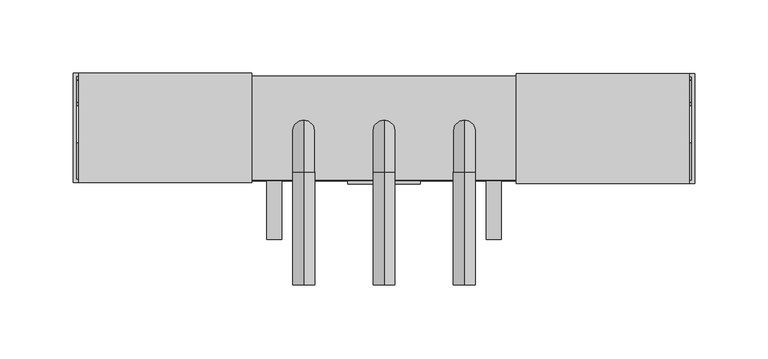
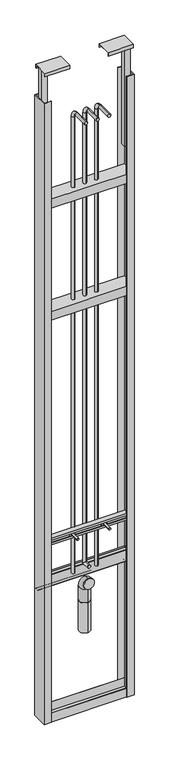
"""IFC4 building model written with IfcOpenShell, lengths in millimetres: flow terminal geometry, NLRS_74_PF_TLB_ASM WST Type A_Geberit : ASM WST Type A."""

from ifc_helpers import new_model, si_unit, point, frame, frame_2d, origin, place, context, project, spatial, polyline, circle_curve, ellipse_curve, trimmed, segment, composite_curve, outline, extrude, faceted_brep, source, transform, mapped, element, save
from ifc_brep_helpers import plane_surface, cylinder_surface, revolved_surface, advanced_brep


def flow_terminal_25b9c78a(model_context):
    return source(origin(), model_context, "Body", "SolidModel", [
        extrude(outline(composite_curve([segment(trimmed(circle_curve(frame_2d((819.5814924, 37.5)), 25.0), [point((819.5814924, 12.5))], [point((819.5814924, 62.5))], False, "CARTESIAN"), True, "CONTINUOUS"), segment(trimmed(circle_curve(frame_2d((819.5814924, 37.5)), 25.0), [point((819.5814924, 62.5))], [point((819.5814924, 12.5))], False, "CARTESIAN"), True, "CONTINUOUS")], self_intersect=False)), frame((0.0, 0.0, 327.9990595), z_axis=(0.0, 0.0, 1.0), x_axis=(1.0, 0.0, 0.0)), (0.0, 0.0, 1.0), 150.0),
        advanced_brep(
        [(819.5814924, 62.5, 546.9990595), (819.5814924, 6.5, 602.9990595), (819.5814924, 6.5, 552.9990595), (819.5814924, 12.5, 546.9990595), (819.5814924, 62.5, 477.9990595), (819.5814924, 12.5, 477.9990595), (819.5814924, 0.0, 602.9990595), (819.5814924, 0.0, 552.9990595)],
        [
            (0, 1, circle_curve(frame((819.5814924, 6.5, 546.9990595), z_axis=(1.0, 0.0, 0.0), x_axis=(0.0, 0.0, -1.0)), 56.0)),
            (1, 2, circle_curve(frame((819.5814924, 6.5, 577.9990595), z_axis=(0.0, 1.0, 0.0), x_axis=(0.0, 0.0, 1.0)), 25.0)),
            (2, 3, circle_curve(frame((819.5814924, 6.5, 546.9990595), z_axis=(-1.0, 0.0, 0.0), x_axis=(0.0, 0.0, -1.0)), 6.0)),
            (3, 0, circle_curve(frame((819.5814924, 37.5, 546.9990595), z_axis=(0.0, 0.0, 1.0), x_axis=(0.0, 1.0, 0.0)), 25.0)),
            (0, 3, circle_curve(frame((819.5814924, 37.5, 546.9990595), z_axis=(0.0, -1.0090147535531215e-12, 1.0), x_axis=(0.0, 1.0, 1.0090147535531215e-12)), 25.0)),
            (2, 1, circle_curve(frame((819.5814924, 6.5, 577.9990595), z_axis=(0.0, 1.0, 0.0), x_axis=(0.0, 0.0, 1.0)), 25.0)),
            (4, 5, circle_curve(frame((819.5814924, 37.5, 477.9990595), z_axis=(0.0, 0.0, -1.0), x_axis=(0.0, -1.0, 0.0)), 25.0)),
            (5, 4, circle_curve(frame((819.5814924, 37.5, 477.9990595), z_axis=(0.0, 0.0, -1.0), x_axis=(0.0, -1.0, 0.0)), 25.0)),
            (5, 3),
            (0, 4),
            (6, 7, circle_curve(frame((819.5814924, 0.0, 577.9990595), z_axis=(0.0, -1.0, 0.0), x_axis=(0.0, 0.0, 1.0)), 25.0)),
            (7, 6, circle_curve(frame((819.5814924, 0.0, 577.9990595), z_axis=(0.0, -1.0, 0.0), x_axis=(0.0, 0.0, 1.0)), 25.0)),
            (6, 1),
            (2, 7),
        ],
        [
            revolved_surface(trimmed(ellipse_curve(frame((819.5814924, 6.5, 515.9990595), z_axis=(0.0, -1.0, 0.0), x_axis=(0.0, 0.0, -1.0)), 25.0, 25.0), [point((819.5814924, 6.5, 490.9990595))], [point((819.5814924, 6.5, 540.9990595))], True, "CARTESIAN"), (819.5814924, 6.5, 546.9990595), (1.0, 0.0, 0.0)),
            revolved_surface(trimmed(ellipse_curve(frame((819.5814924, 6.5, 515.9990595), z_axis=(0.0, -1.0, 0.0), x_axis=(0.0, 0.0, -1.0)), 25.0, 25.0), [point((819.5814924, 6.5, 540.9990595))], [point((819.5814924, 6.5, 490.9990595))], True, "CARTESIAN"), (819.5814924, 6.5, 546.9990595), (1.0, 0.0, 0.0)),
            plane_surface(frame((819.5814924, 0.0, 477.9990595), z_axis=(0.0, 0.0, -1.0), x_axis=(0.0, -1.0, 0.0))),
            cylinder_surface(frame((819.5814924, 37.5, 546.9990595), z_axis=(0.0, 0.0, 1.0), x_axis=(0.0, -1.0, 0.0)), 25.0),
            plane_surface(frame((819.5814924, 0.0, 602.9990595), z_axis=(0.0, -1.0, 0.0), x_axis=(-1.0, 0.0, 0.0))),
            cylinder_surface(frame((819.5814924, 6.5, 577.9990595), z_axis=(0.0, -1.0, 0.0), x_axis=(0.0, 0.0, 1.0)), 25.0),
        ],
        [
            (0, [[1, 2, 3, 4]]),
            (1, [[-1, 5, -3, 6]]),
            (2, [[7, 8]]),
            (3, [[-8, 9, -5, 10]]),
            (3, [[-7, -10, -4, -9]]),
            (4, [[11, 12]]),
            (5, [[-11, 13, -6, 14]]),
            (5, [[-12, -14, -2, -13]]),
        ],
    ),
        extrude(outline(polyline([(2.5, 2516.0), (2.5, 2560.0), (73.5, 2560.0), (73.5, 2516.0), (71.5, 2516.0), (71.5, 2558.0), (4.5, 2558.0), (4.5, 2516.0), (2.5, 2516.0)])), frame((612.0814924, 0.0, 0.0), z_axis=(1.0, 0.0, 0.0), x_axis=(0.0, 1.0, 0.0)), (0.0, 0.0, 1.0), 415.0),
        extrude(outline(polyline([(2.5, 1956.0), (2.5, 2000.0), (73.5, 2000.0), (73.5, 1956.0), (71.5, 1956.0), (71.5, 1998.0), (4.5, 1998.0), (4.5, 1956.0), (2.5, 1956.0)])), frame((612.0814924, 0.0, 0.0), z_axis=(1.0, 0.0, 0.0), x_axis=(0.0, 1.0, 0.0)), (0.0, 0.0, 1.0), 415.0),
        extrude(outline(polyline([(997.0814924, 0.0), (997.0814924, 2.0), (1030.0814924, 2.0), (1030.0814924, 73.0), (997.0814924, 73.0), (997.0814924, 75.0), (1032.0814924, 75.0), (1032.0814924, 0.0), (997.0814924, 0.0)])), frame((0.0, 0.0, -50.0), z_axis=(0.0, 0.0, 1.0), x_axis=(1.0, 0.0, 0.0)), (0.0, 0.0, 1.0), 3100.0),
        extrude(outline(polyline([(642.0814924, 0.5), (607.0814924, 0.5), (607.0814924, 75.5), (642.0814924, 75.5), (642.0814924, 73.5), (609.0814924, 73.5), (609.0814924, 2.5), (642.0814924, 2.5), (642.0814924, 0.5)])), frame((0.0, 0.0, -50.0), z_axis=(0.0, 0.0, 1.0), x_axis=(1.0, 0.0, 0.0)), (0.0, 0.0, 1.0), 3100.0),
        extrude(outline(polyline([(2.0, -6.0), (4.0, -6.0), (4.0, -48.0), (71.0, -48.0), (71.0, -6.0), (73.0, -6.0), (73.0, -50.0), (2.0, -50.0), (2.0, -6.0)])), frame((612.0814924, 0.0, 0.0), z_axis=(1.0, 0.0, 0.0), x_axis=(0.0, 1.0, 0.0)), (0.0, 0.0, 1.0), 415.0),
        faceted_brep([(910.0814924, 0.0, 3183.0), (910.0814924, 0.0, 3200.0), (910.0814924, 75.0, 3200.0), (910.0814924, 75.0, 3183.0), (910.0814924, 73.0, 3183.0), (910.0814924, 73.0, 3198.0), (910.0814924, 2.0, 3198.0), (910.0814924, 2.0, 3183.0), (1028.0814924, 0.0, 3183.0), (1028.0814924, 2.0, 3183.0), (1028.0814924, 2.0, 3198.0), (1028.0814924, 25.0, 3198.0), (1028.0814924, 25.0, 2683.0), (1028.0814924, 50.0, 2683.0), (1028.0814924, 50.0, 3198.0), (1028.0814924, 73.0, 3198.0), (1028.0814924, 73.0, 3183.0), (1028.0814924, 75.0, 3183.0), (1028.0814924, 75.0, 3200.0), (1028.0814924, 0.0, 3200.0), (1003.0814924, 50.0, 3198.0), (1003.0814924, 25.0, 3198.0), (1003.0814924, 25.0, 2683.0), (1003.0814924, 50.0, 2683.0)], [[[0, 1, 2, 3, 4, 5, 6, 7]], [[8, 9, 10, 11, 12, 13, 14, 15, 16, 17, 18, 19]], [[0, 7, 9, 8]], [[7, 6, 10, 9]], [[6, 5, 15, 14, 20, 21, 11, 10]], [[5, 4, 16, 15]], [[4, 3, 17, 16]], [[3, 2, 18, 17]], [[2, 1, 19, 18]], [[1, 0, 8, 19]], [[22, 23, 13, 12]], [[22, 12, 11, 21]], [[13, 23, 20, 14]], [[23, 22, 21, 20]]]),
        faceted_brep([(729.0814924, 0.5, 3183.0), (729.0814924, 2.5, 3183.0), (729.0814924, 2.5, 3198.0), (729.0814924, 73.5, 3198.0), (729.0814924, 73.5, 3183.0), (729.0814924, 75.5, 3183.0), (729.0814924, 75.5, 3200.0), (729.0814924, 0.5, 3200.0), (611.0814924, 0.5, 3183.0), (611.0814924, 0.5, 3200.0), (611.0814924, 75.5, 3200.0), (611.0814924, 75.5, 3183.0), (611.0814924, 73.5, 3183.0), (611.0814924, 73.5, 3198.0), (611.0814924, 50.5, 3198.0), (611.0814924, 50.5, 2683.0), (611.0814924, 25.5, 2683.0), (611.0814924, 25.5, 3198.0), (611.0814924, 2.5, 3198.0), (611.0814924, 2.5, 3183.0), (636.0814924, 25.5, 3198.0), (636.0814924, 50.5, 3198.0), (636.0814924, 25.5, 2683.0), (636.0814924, 50.5, 2683.0)], [[[0, 1, 2, 3, 4, 5, 6, 7]], [[8, 9, 10, 11, 12, 13, 14, 15, 16, 17, 18, 19]], [[0, 8, 19, 1]], [[1, 19, 18, 2]], [[2, 18, 17, 20, 21, 14, 13, 3]], [[3, 13, 12, 4]], [[4, 12, 11, 5]], [[5, 11, 10, 6]], [[6, 10, 9, 7]], [[7, 9, 8, 0]], [[22, 16, 15, 23]], [[22, 20, 17, 16]], [[15, 14, 21, 23]], [[23, 21, 20, 22]]]),
        advanced_brep(
        [(819.5814924, 0.0, 672.5), (819.5814924, 0.0, 657.5), (819.5814924, 43.1893191, 657.5), (819.5814924, 28.1893191, 672.5), (819.5814924, 28.1893191, 2912.0), (819.5814924, 43.1893191, 2912.0), (819.5814924, 7.6893191, 2947.5), (819.5814924, 7.6893191, 2932.5), (819.5814924, -69.5, 2932.5), (819.5814924, -69.5, 2947.5)],
        [
            (0, 1, circle_curve(frame((819.5814924, 0.0, 665.0), z_axis=(0.0, -1.0, 0.0), x_axis=(0.0, 0.0, -1.0)), 7.5)),
            (1, 0, circle_curve(frame((819.5814924, 0.0, 665.0), z_axis=(0.0, -1.0, 0.0), x_axis=(0.0, 0.0, -1.0)), 7.5)),
            (2, 3, ellipse_curve(frame((819.5814924, 35.6893191, 665.0), z_axis=(0.0, 0.7071067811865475, 0.7071067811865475), x_axis=(0.0, 0.7071067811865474, -0.7071067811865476)), 10.6066017, 7.5)),
            (3, 4),
            (4, 5, circle_curve(frame((819.5814924, 35.6893191, 2912.0), z_axis=(0.0, 0.0, -1.0), x_axis=(0.0, 1.0, 0.0)), 7.5)),
            (5, 2),
            (3, 2, ellipse_curve(frame((819.5814924, 35.6893191, 665.0), z_axis=(0.0, 0.7071067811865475, 0.7071067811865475), x_axis=(0.0, 0.7071067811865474, -0.7071067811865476)), 10.6066017, 7.5)),
            (5, 4, circle_curve(frame((819.5814924, 35.6893191, 2912.0), z_axis=(0.0, 0.0, -1.0), x_axis=(0.0, 1.0, 0.0)), 7.5)),
            (6, 5, circle_curve(frame((819.5814924, 7.6893191, 2912.0), z_axis=(-1.0, 0.0, 0.0), x_axis=(0.0, 1.0, 0.0)), 35.5)),
            (4, 7, circle_curve(frame((819.5814924, 7.6893191, 2912.0), z_axis=(1.0, 0.0, 0.0), x_axis=(0.0, 1.0, 0.0)), 20.5)),
            (7, 6, circle_curve(frame((819.5814924, 7.6893191, 2940.0), z_axis=(0.0, 1.0, 0.0), x_axis=(0.0, 0.0, 1.0)), 7.5)),
            (6, 7, circle_curve(frame((819.5814924, 7.6893191, 2940.0), z_axis=(0.0, 1.0, 0.0), x_axis=(0.0, 0.0, 1.0)), 7.5)),
            (8, 9, circle_curve(frame((819.5814924, -69.5, 2940.0), z_axis=(0.0, -1.0, 0.0), x_axis=(0.0, 0.0, 1.0)), 7.5)),
            (9, 8, circle_curve(frame((819.5814924, -69.5, 2940.0), z_axis=(0.0, -1.0, 0.0), x_axis=(0.0, 0.0, 1.0)), 7.5)),
            (7, 8),
            (9, 6),
            (0, 3),
            (2, 1),
        ],
        [
            plane_surface(frame((874.5814924, 0.0, 665.0), z_axis=(0.0, -1.0, 0.0), x_axis=(-1.0, 0.0, 0.0))),
            cylinder_surface(frame((819.5814924, 35.6893191, 665.0), z_axis=(0.0, 0.0, -1.0), x_axis=(0.0, 1.0, 0.0)), 7.5),
            revolved_surface(trimmed(ellipse_curve(frame((819.5814924, 35.6893191, 2912.0), z_axis=(0.0, 0.0, -1.0), x_axis=(0.0, 1.0, 0.0)), 7.5, 7.5), [point((819.5814924, 28.1893191, 2912.0))], [point((819.5814924, 43.1893191, 2912.0))], True, "CARTESIAN"), (874.5814924, 7.6893191, 2912.0), (1.0, 0.0, 0.0)),
            revolved_surface(trimmed(ellipse_curve(frame((819.5814924, 35.6893191, 2912.0), z_axis=(0.0, 0.0, -1.0), x_axis=(0.0, 1.0, 0.0)), 7.5, 7.5), [point((819.5814924, 43.1893191, 2912.0))], [point((819.5814924, 28.1893191, 2912.0))], True, "CARTESIAN"), (874.5814924, 7.6893191, 2912.0), (1.0, 0.0, 0.0)),
            plane_surface(frame((874.5814924, -69.5, 2940.0), z_axis=(0.0, -1.0, 0.0), x_axis=(-1.0, 0.0, 0.0))),
            cylinder_surface(frame((819.5814924, 7.6893191, 2940.0), z_axis=(0.0, 1.0, 0.0), x_axis=(0.0, 0.0, 1.0)), 7.5),
            cylinder_surface(frame((819.5814924, 0.0, 665.0), z_axis=(0.0, -1.0, 0.0), x_axis=(0.0, 0.0, -1.0)), 7.5),
        ],
        [
            (0, [[1, 2]]),
            (1, [[3, 4, 5, 6]]),
            (1, [[7, -6, 8, -4]]),
            (2, [[9, -5, 10, 11]]),
            (3, [[-10, -8, -9, 12]]),
            (4, [[13, 14]]),
            (5, [[-11, 15, -14, 16]]),
            (5, [[-12, -16, -13, -15]]),
            (6, [[-1, 17, -3, 18]]),
            (6, [[-2, -18, -7, -17]]),
        ],
    ),
        advanced_brep(
        [(874.5814924, 28.1893191, 633.0), (874.5814924, 43.1893191, 633.0), (874.5814924, 28.1893191, 2912.0), (874.5814924, 43.1893191, 2912.0), (874.5814924, 7.6893191, 2947.5), (874.5814924, 7.6893191, 2932.5), (874.5814924, -69.5, 2932.5), (874.5814924, -69.5, 2947.5)],
        [
            (0, 1, circle_curve(frame((874.5814924, 35.6893191, 633.0), z_axis=(0.0, 0.0, -1.0), x_axis=(0.0, 1.0, 0.0)), 7.5)),
            (1, 0, circle_curve(frame((874.5814924, 35.6893191, 633.0), z_axis=(0.0, 0.0, -1.0), x_axis=(0.0, 1.0, 0.0)), 7.5)),
            (0, 2),
            (2, 3, circle_curve(frame((874.5814924, 35.6893191, 2912.0), z_axis=(0.0, 0.0, -1.0), x_axis=(0.0, 1.0, 0.0)), 7.5)),
            (3, 1),
            (3, 2, circle_curve(frame((874.5814924, 35.6893191, 2912.0), z_axis=(0.0, 0.0, -1.0), x_axis=(0.0, 1.0, 0.0)), 7.5)),
            (4, 3, circle_curve(frame((874.5814924, 7.6893191, 2912.0), z_axis=(-1.0, 0.0, 0.0), x_axis=(0.0, 1.0, 0.0)), 35.5)),
            (2, 5, circle_curve(frame((874.5814924, 7.6893191, 2912.0), z_axis=(1.0, 0.0, 0.0), x_axis=(0.0, 1.0, 0.0)), 20.5)),
            (5, 4, circle_curve(frame((874.5814924, 7.6893191, 2940.0), z_axis=(0.0, 1.0, 0.0), x_axis=(0.0, 0.0, 1.0)), 7.5)),
            (4, 5, circle_curve(frame((874.5814924, 7.6893191, 2940.0), z_axis=(0.0, 1.0, 0.0), x_axis=(0.0, 0.0, 1.0)), 7.5)),
            (6, 7, circle_curve(frame((874.5814924, -69.5, 2940.0), z_axis=(0.0, -1.0, 0.0), x_axis=(0.0, 0.0, 1.0)), 7.5)),
            (7, 6, circle_curve(frame((874.5814924, -69.5, 2940.0), z_axis=(0.0, -1.0, 0.0), x_axis=(0.0, 0.0, 1.0)), 7.5)),
            (5, 6),
            (7, 4),
        ],
        [
            plane_surface(frame((874.5814924, 35.6893191, 633.0), z_axis=(0.0, 0.0, -1.0), x_axis=(-1.0, 0.0, 0.0))),
            cylinder_surface(frame((874.5814924, 35.6893191, 633.0), z_axis=(0.0, 0.0, -1.0), x_axis=(0.0, 1.0, 0.0)), 7.5),
            revolved_surface(trimmed(ellipse_curve(frame((874.5814924, 35.6893191, 2912.0), z_axis=(0.0, 0.0, -1.0), x_axis=(0.0, 1.0, 0.0)), 7.5, 7.5), [point((874.5814924, 28.1893191, 2912.0))], [point((874.5814924, 43.1893191, 2912.0))], True, "CARTESIAN"), (874.5814924, 7.6893191, 2912.0), (1.0, 0.0, 0.0)),
            revolved_surface(trimmed(ellipse_curve(frame((874.5814924, 35.6893191, 2912.0), z_axis=(0.0, 0.0, -1.0), x_axis=(0.0, 1.0, 0.0)), 7.5, 7.5), [point((874.5814924, 43.1893191, 2912.0))], [point((874.5814924, 28.1893191, 2912.0))], True, "CARTESIAN"), (874.5814924, 7.6893191, 2912.0), (1.0, 0.0, 0.0)),
            plane_surface(frame((874.5814924, -69.5, 2940.0), z_axis=(0.0, -1.0, 0.0), x_axis=(-1.0, 0.0, 0.0))),
            cylinder_surface(frame((874.5814924, 7.6893191, 2940.0), z_axis=(0.0, 1.0, 0.0), x_axis=(0.0, 0.0, 1.0)), 7.5),
        ],
        [
            (0, [[1, 2]]),
            (1, [[-1, 3, 4, 5]]),
            (1, [[-2, -5, 6, -3]]),
            (2, [[7, -4, 8, 9]]),
            (3, [[-8, -6, -7, 10]]),
            (4, [[11, 12]]),
            (5, [[-9, 13, -12, 14]]),
            (5, [[-10, -14, -11, -13]]),
        ],
    ),
        advanced_brep(
        [(764.5814924, 28.1893191, 633.0), (764.5814924, 43.1893191, 633.0), (764.5814924, -69.5, 2932.5), (764.5814924, -69.5, 2947.5), (764.5814924, 28.1893191, 2912.0), (764.5814924, 43.1893191, 2912.0), (764.5814924, 7.6893191, 2947.5), (764.5814924, 7.6893191, 2932.5)],
        [
            (0, 1, circle_curve(frame((764.5814924, 35.6893191, 633.0), z_axis=(0.0, 0.0, -1.0), x_axis=(0.0, 1.0, 0.0)), 7.5)),
            (1, 0, circle_curve(frame((764.5814924, 35.6893191, 633.0), z_axis=(0.0, 0.0, -1.0), x_axis=(0.0, 1.0, 0.0)), 7.5)),
            (2, 3, circle_curve(frame((764.5814924, -69.5, 2940.0), z_axis=(0.0, -1.0, 0.0), x_axis=(0.0, 0.0, 1.0)), 7.5)),
            (3, 2, circle_curve(frame((764.5814924, -69.5, 2940.0), z_axis=(0.0, -1.0, 0.0), x_axis=(0.0, 0.0, 1.0)), 7.5)),
            (0, 4),
            (4, 5, circle_curve(frame((764.5814924, 35.6893191, 2912.0), z_axis=(0.0, 0.0, -1.0), x_axis=(0.0, 1.0, 0.0)), 7.5)),
            (5, 1),
            (5, 4, circle_curve(frame((764.5814924, 35.6893191, 2912.0), z_axis=(0.0, 0.0, -1.0), x_axis=(0.0, 1.0, 0.0)), 7.5)),
            (6, 5, circle_curve(frame((764.5814924, 7.6893191, 2912.0), z_axis=(-1.0, 0.0, 0.0), x_axis=(0.0, 1.0, 0.0)), 35.5)),
            (4, 7, circle_curve(frame((764.5814924, 7.6893191, 2912.0), z_axis=(1.0, 0.0, 0.0), x_axis=(0.0, 1.0, 0.0)), 20.5)),
            (7, 6, circle_curve(frame((764.5814924, 7.6893191, 2940.0), z_axis=(0.0, 1.0, 0.0), x_axis=(0.0, 0.0, 1.0)), 7.5)),
            (6, 7, circle_curve(frame((764.5814924, 7.6893191, 2940.0), z_axis=(0.0, 1.0, 0.0), x_axis=(0.0, 0.0, 1.0)), 7.5)),
            (7, 2),
            (3, 6),
        ],
        [
            plane_surface(frame((764.5814924, 35.6893191, 633.0), z_axis=(0.0, 0.0, -1.0), x_axis=(-1.0, 0.0, 0.0))),
            plane_surface(frame((764.5814924, -69.5, 2940.0), z_axis=(0.0, -1.0, 0.0), x_axis=(-1.0, 0.0, 0.0))),
            cylinder_surface(frame((764.5814924, 35.6893191, 633.0), z_axis=(0.0, 0.0, -1.0), x_axis=(0.0, 1.0, 0.0)), 7.5),
            revolved_surface(trimmed(ellipse_curve(frame((764.5814924, 35.6893191, 2912.0), z_axis=(0.0, 0.0, -1.0), x_axis=(0.0, 1.0, 0.0)), 7.5, 7.5), [point((764.5814924, 28.1893191, 2912.0))], [point((764.5814924, 43.1893191, 2912.0))], True, "CARTESIAN"), (764.5814924, 7.6893191, 2912.0), (1.0, 0.0, 0.0)),
            revolved_surface(trimmed(ellipse_curve(frame((764.5814924, 35.6893191, 2912.0), z_axis=(0.0, 0.0, -1.0), x_axis=(0.0, 1.0, 0.0)), 7.5, 7.5), [point((764.5814924, 43.1893191, 2912.0))], [point((764.5814924, 28.1893191, 2912.0))], True, "CARTESIAN"), (764.5814924, 7.6893191, 2912.0), (1.0, 0.0, 0.0)),
            cylinder_surface(frame((764.5814924, 7.6893191, 2940.0), z_axis=(0.0, 1.0, 0.0), x_axis=(0.0, 0.0, 1.0)), 7.5),
        ],
        [
            (0, [[1, 2]]),
            (1, [[3, 4]]),
            (2, [[-1, 5, 6, 7]]),
            (2, [[-2, -7, 8, -5]]),
            (3, [[9, -6, 10, 11]]),
            (4, [[-10, -8, -9, 12]]),
            (5, [[-11, 13, -4, 14]]),
            (5, [[-12, -14, -3, -13]]),
        ],
    ),
        advanced_brep(
        [(739.5750369, -38.0, 850.0), (749.5750369, -38.0, 850.0), (739.5750369, 12.0, 850.0), (749.5750369, 12.0, 850.0), (756.5814924, 9.0, 862.0061365), (756.5814924, 9.0, 837.9938635), (732.5814924, 9.0, 837.9938635), (732.5814924, 9.0, 862.0061365), (739.5750369, 9.0, 850.0), (749.5750369, 9.0, 850.0), (756.5814924, 6.0, 862.0061365), (732.5814924, 6.0, 862.0061365), (732.5814924, 6.0, 837.9938635), (756.5814924, 6.0, 837.9938635), (749.5750369, 6.0, 850.0), (739.5750369, 6.0, 850.0)],
        [
            (0, 1, circle_curve(frame((744.5750369, -38.0, 850.0), z_axis=(0.0, -1.0, 0.0), x_axis=(1.0, 0.0, 0.0)), 5.0)),
            (1, 0, circle_curve(frame((744.5750369, -38.0, 850.0), z_axis=(0.0, -1.0, 0.0), x_axis=(1.0, 0.0, 0.0)), 5.0)),
            (2, 3, circle_curve(frame((744.5750369, 12.0, 850.0), z_axis=(0.0, 1.0, 0.0), x_axis=(1.0, 0.0, 0.0)), 5.0)),
            (3, 2, circle_curve(frame((744.5750369, 12.0, 850.0), z_axis=(0.0, 1.0, 0.0), x_axis=(1.0, 0.0, 0.0)), 5.0)),
            (4, 5),
            (5, 6),
            (6, 7),
            (7, 4),
            (8, 9, circle_curve(frame((744.5750369, 9.0, 850.0), z_axis=(0.0, -1.0, 0.0), x_axis=(1.0, 0.0, 0.0)), 5.0)),
            (9, 8, circle_curve(frame((744.5750369, 9.0, 850.0), z_axis=(0.0, -1.0, 0.0), x_axis=(1.0, 0.0, 0.0)), 5.0)),
            (10, 11),
            (11, 12),
            (12, 13),
            (13, 10),
            (14, 15, circle_curve(frame((744.5750369, 6.0, 850.0), z_axis=(0.0, 1.0, 0.0), x_axis=(1.0, 0.0, 0.0)), 5.0)),
            (15, 14, circle_curve(frame((744.5750369, 6.0, 850.0), z_axis=(0.0, 1.0, 0.0), x_axis=(1.0, 0.0, 0.0)), 5.0)),
            (7, 11),
            (10, 4),
            (6, 12),
            (5, 13),
            (0, 15),
            (14, 1),
            (3, 9),
            (8, 2),
        ],
        [
            plane_surface(frame((749.5750369, -38.0, 850.0), z_axis=(0.0, -1.0, 0.0), x_axis=(0.0, 0.0, 1.0))),
            plane_surface(frame((749.5750369, 12.0, 850.0), z_axis=(0.0, 1.0, 0.0), x_axis=(0.0, 0.0, -1.0))),
            plane_surface(frame((732.5814924, 9.0, 862.0061365), z_axis=(0.0, 1.0, 0.0), x_axis=(1.0, 0.0, 0.0))),
            plane_surface(frame((732.5814924, 6.0, 862.0061365), z_axis=(0.0, -1.0, 0.0), x_axis=(-1.0, 0.0, 0.0))),
            plane_surface(frame((756.5814924, 6.0, 862.0061365), z_axis=(0.0, 0.0, 1.0), x_axis=(0.0, 1.0, 0.0))),
            plane_surface(frame((732.5814924, 6.0, 862.0061365), z_axis=(-1.0, 0.0, 0.0), x_axis=(0.0, 1.0, 0.0))),
            plane_surface(frame((732.5814924, 6.0, 837.9938635), z_axis=(0.0, 0.0, -1.0), x_axis=(0.0, 1.0, 0.0))),
            plane_surface(frame((756.5814924, 6.0, 837.9938635), z_axis=(1.0, 0.0, 0.0), x_axis=(0.0, 1.0, 0.0))),
            cylinder_surface(frame((744.5750369, 12.0, 850.0), z_axis=(0.0, -1.0, 0.0), x_axis=(1.0, 0.0, 0.0)), 5.0),
        ],
        [
            (0, [[1, 2]]),
            (1, [[3, 4]]),
            (2, [[5, 6, 7, 8], [9, 10]]),
            (3, [[11, 12, 13, 14], [15, 16]]),
            (4, [[-8, 17, -11, 18]]),
            (5, [[-7, 19, -12, -17]]),
            (6, [[-6, 20, -13, -19]]),
            (7, [[-5, -18, -14, -20]]),
            (8, [[-1, 21, -15, 22]]),
            (8, [[-4, 23, -9, 24]]),
            (8, [[-2, -22, -16, -21]]),
            (8, [[-3, -24, -10, -23]]),
        ],
    ),
        advanced_brep(
        [(906.5814924, 9.0, 862.0061365), (906.5814924, 9.0, 837.9938635), (882.5814924, 9.0, 837.9938635), (882.5814924, 9.0, 862.0061365), (889.5814924, 9.0, 850.0), (899.5814924, 9.0, 850.0), (906.5814924, 6.0, 862.0061365), (882.5814924, 6.0, 862.0061365), (882.5814924, 6.0, 837.9938635), (906.5814924, 6.0, 837.9938635), (899.5814924, 6.0, 850.0), (889.5814924, 6.0, 850.0), (889.5814924, -38.0, 850.0), (899.5814924, -38.0, 850.0), (889.5814924, 12.0, 850.0), (899.5814924, 12.0, 850.0)],
        [
            (0, 1),
            (1, 2),
            (2, 3),
            (3, 0),
            (4, 5, circle_curve(frame((894.5814924, 9.0, 850.0), z_axis=(0.0, -1.0, 0.0), x_axis=(1.0, 0.0, 0.0)), 5.0)),
            (5, 4, circle_curve(frame((894.5814924, 9.0, 850.0), z_axis=(0.0, -1.0, 0.0), x_axis=(1.0, 0.0, 0.0)), 5.0)),
            (6, 7),
            (7, 8),
            (8, 9),
            (9, 6),
            (10, 11, circle_curve(frame((894.5814924, 6.0, 850.0), z_axis=(0.0, 1.0, 0.0), x_axis=(1.0, 0.0, 0.0)), 5.0)),
            (11, 10, circle_curve(frame((894.5814924, 6.0, 850.0), z_axis=(0.0, 1.0, 0.0), x_axis=(1.0, 0.0, 0.0)), 5.0)),
            (3, 7),
            (6, 0),
            (2, 8),
            (1, 9),
            (12, 13, circle_curve(frame((894.5814924, -38.0, 850.0), z_axis=(0.0, -1.0, 0.0), x_axis=(1.0, 0.0, 0.0)), 5.0)),
            (13, 12, circle_curve(frame((894.5814924, -38.0, 850.0), z_axis=(0.0, -1.0, 0.0), x_axis=(1.0, 0.0, 0.0)), 5.0)),
            (14, 15, circle_curve(frame((894.5814924, 12.0, 850.0), z_axis=(0.0, 1.0, 0.0), x_axis=(1.0, 0.0, 0.0)), 5.0)),
            (15, 14, circle_curve(frame((894.5814924, 12.0, 850.0), z_axis=(0.0, 1.0, 0.0), x_axis=(1.0, 0.0, 0.0)), 5.0)),
            (12, 11),
            (10, 13),
            (15, 5),
            (4, 14),
        ],
        [
            plane_surface(frame((732.5814924, 9.0, 862.0061365), z_axis=(0.0, 1.0, 0.0), x_axis=(1.0, 0.0, 0.0))),
            plane_surface(frame((732.5814924, 6.0, 862.0061365), z_axis=(0.0, -1.0, 0.0), x_axis=(-1.0, 0.0, 0.0))),
            plane_surface(frame((906.5814924, 6.0, 862.0061365), z_axis=(0.0, 0.0, 1.0), x_axis=(0.0, 1.0, 0.0))),
            plane_surface(frame((882.5814924, 6.0, 862.0061365), z_axis=(-1.0, 0.0, 0.0), x_axis=(0.0, 1.0, 0.0))),
            plane_surface(frame((882.5814924, 6.0, 837.9938635), z_axis=(0.0, 0.0, -1.0), x_axis=(0.0, 1.0, 0.0))),
            plane_surface(frame((906.5814924, 6.0, 837.9938635), z_axis=(1.0, 0.0, 0.0), x_axis=(0.0, 1.0, 0.0))),
            plane_surface(frame((899.5814924, -38.0, 850.0), z_axis=(0.0, -1.0, 0.0), x_axis=(0.0, 0.0, 1.0))),
            plane_surface(frame((899.5814924, 12.0, 850.0), z_axis=(0.0, 1.0, 0.0), x_axis=(0.0, 0.0, -1.0))),
            cylinder_surface(frame((894.5814924, 12.0, 850.0), z_axis=(0.0, -1.0, 0.0), x_axis=(1.0, 0.0, 0.0)), 5.0),
        ],
        [
            (0, [[1, 2, 3, 4], [5, 6]]),
            (1, [[7, 8, 9, 10], [11, 12]]),
            (2, [[-4, 13, -7, 14]]),
            (3, [[-3, 15, -8, -13]]),
            (4, [[-2, 16, -9, -15]]),
            (5, [[-1, -14, -10, -16]]),
            (6, [[17, 18]]),
            (7, [[19, 20]]),
            (8, [[-17, 21, -11, 22]]),
            (8, [[-20, 23, -5, 24]]),
            (8, [[-18, -22, -12, -21]]),
            (8, [[-19, -24, -6, -23]]),
        ],
    ),
        extrude(outline(polyline([(27.9787209, 865.5037298), (27.9787209, 834.4725601), (2.5, 834.4725601), (2.5, 844.4725601), (4.4828185, 844.4725601), (4.4828185, 836.5435697), (26.0224407, 836.5435697), (26.0224407, 863.5504833), (4.4828185, 863.5504833), (4.4828185, 855.5037298), (2.5, 855.5037298), (2.5, 865.5037298), (27.9787209, 865.5037298)])), frame((609.0917509, 0.0, 0.0), z_axis=(1.0, 0.0, 0.0), x_axis=(0.0, 1.0, 0.0)), (0.0, 0.0, 1.0), 420.9897416),
        extrude(outline(composite_curve([segment(trimmed(circle_curve(frame_2d((71.3732031, 644.0160249)), 2.1267969), [point((73.5, 644.0160249))], [point((71.3732031, 641.889228))], False, "CARTESIAN"), True, "CONTINUOUS"), segment(polyline([(71.3732031, 641.889228), (56.3732031, 641.889228)]), True, "CONTINUOUS"), segment(trimmed(circle_curve(frame_2d((56.3732031, 641.2053441)), 0.683884), [point((56.3732031, 641.889228))], [point((55.6893191, 641.2053441))], True, "CARTESIAN"), True, "CONTINUOUS"), segment(polyline([(55.6893191, 641.2053441), (55.6893191, 588.7713196)]), True, "CONTINUOUS"), segment(trimmed(circle_curve(frame_2d((56.3874999, 588.7713196)), 0.6981808), [point((55.6893191, 588.7713196))], [point((56.3874999, 588.0731388))], True, "CARTESIAN"), True, "CONTINUOUS"), segment(polyline([(56.3874999, 588.0731388), (71.3874999, 588.0731388)]), True, "CONTINUOUS"), segment(trimmed(circle_curve(frame_2d((71.3874999, 585.9606387)), 2.1125001), [point((71.3874999, 588.0731388))], [point((73.5, 585.9606387))], False, "CARTESIAN"), True, "CONTINUOUS"), segment(polyline([(73.5, 585.9606387), (73.5, 579.0), (71.5, 579.0), (71.5, 585.3374716)]), True, "CONTINUOUS"), segment(trimmed(circle_curve(frame_2d((70.7643328, 585.3374716)), 0.7356672), [point((71.5, 585.3374716))], [point((70.7643328, 586.0731388))], True, "CARTESIAN"), True, "CONTINUOUS"), segment(polyline([(70.7643328, 586.0731388), (55.7863096, 586.0731388)]), True, "CONTINUOUS"), segment(trimmed(circle_curve(frame_2d((55.7863096, 588.1701292)), 2.0969904), [point((55.7863096, 586.0731388))], [point((53.6893191, 588.1701292))], False, "CARTESIAN"), True, "CONTINUOUS"), segment(polyline([(53.6893191, 588.1701292), (53.6893191, 641.7922376)]), True, "CONTINUOUS"), segment(trimmed(circle_curve(frame_2d((55.7863096, 641.7922376)), 2.0969904), [point((53.6893191, 641.7922376))], [point((55.7863096, 643.889228))], False, "CARTESIAN"), True, "CONTINUOUS"), segment(polyline([(55.7863096, 643.889228), (70.7904457, 643.889228)]), True, "CONTINUOUS"), segment(trimmed(circle_curve(frame_2d((70.7904457, 644.5987824)), 0.7095543), [point((70.7904457, 643.889228))], [point((71.5, 644.5987824))], True, "CARTESIAN"), True, "CONTINUOUS"), segment(polyline([(71.5, 644.5987824), (71.5, 651.0), (73.5, 651.0), (73.5, 644.0160249)]), True, "CONTINUOUS")], self_intersect=False)), frame((609.5814924, 0.0, 0.0), z_axis=(1.0, 0.0, 0.0), x_axis=(0.0, 1.0, 0.0)), (0.0, 0.0, 1.0), 420.0),
    ])


if __name__ == "__main__":
    model = new_model("IFC4")
    model_context = context("Model", 3, world=origin())
    ifc_project = project(units=[si_unit("LENGTHUNIT", "METRE", prefix="MILLI")], contexts=[model_context])
    site = spatial("IfcSite", under=ifc_project)
    building = spatial("IfcBuilding", under=site)
    placement = place(None, origin())
    flow_terminal_shape = flow_terminal_25b9c78a(model_context)
    element("IfcFlowTerminal", 1, ObjectType="NLRS_74_PF_TLB_ASM WST Type A_Geberit : ASM WST Type A", at=placement, inside=building, context=model_context, shape_type="MappedRepresentation", body=[
        mapped(flow_terminal_shape, transform((0.0, 0.0, 0.0), x_axis=(1.0, 0.0, 0.0), y_axis=(0.0, 1.0, 0.0), z_axis=(0.0, 0.0, 1.0))),
    ])
    save(model, "model.ifc")
